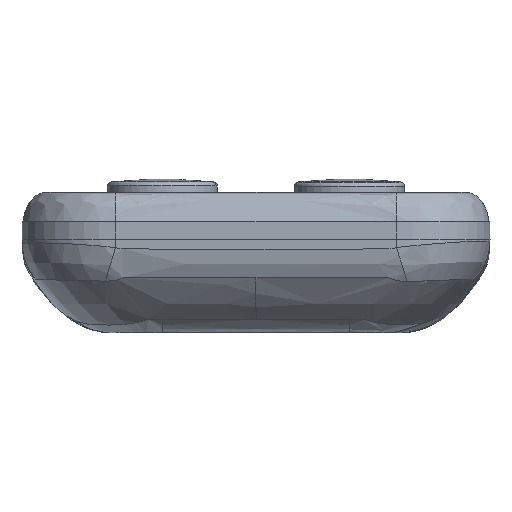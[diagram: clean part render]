
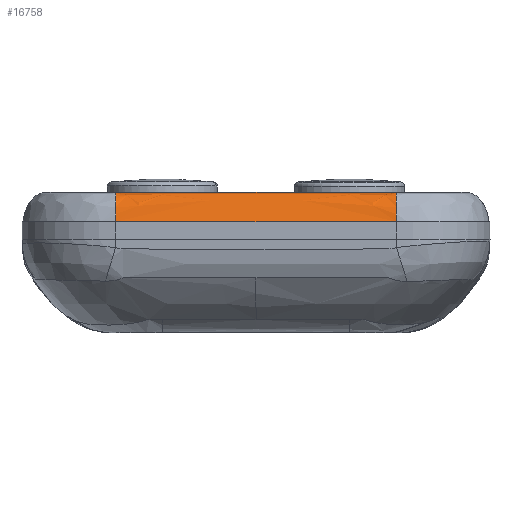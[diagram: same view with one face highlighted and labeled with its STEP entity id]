
A CAD part, front view. The second image highlights one B-rep face of the part: STEP entity #16758.
In plain terms, the highlighted free-form (B-spline) face has degree [2, 3] with [3, 4] control points.
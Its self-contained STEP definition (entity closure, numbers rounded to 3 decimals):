
#235 = CARTESIAN_POINT ( 'NONE',  ( 8., -57.964, 0. ) ) ;
#1622 = FACE_OUTER_BOUND ( 'NONE', #5903, .T. ) ;
#2096 = CARTESIAN_POINT ( 'NONE',  ( 12., -59.607, 0. ) ) ;
#2206 =( BOUNDED_CURVE ( )  B_SPLINE_CURVE ( 2, ( #3327, #15199, #18567 ),
 .UNSPECIFIED., .F., .T. ) 
 B_SPLINE_CURVE_WITH_KNOTS ( ( 3, 3 ),
 ( 0.1, 1. ),
 .UNSPECIFIED. ) 
 CURVE ( )  GEOMETRIC_REPRESENTATION_ITEM ( )  RATIONAL_B_SPLINE_CURVE ( ( 0.95, 0.747, 1. ) ) 
 REPRESENTATION_ITEM ( '' )  );
#2882 = VERTEX_POINT ( 'NONE', #11326 ) ;
#3327 = CARTESIAN_POINT ( 'NONE',  ( -12., -59.928, -2.5 ) ) ;
#3357 = CARTESIAN_POINT ( 'NONE',  ( 12., -57.964, 0. ) ) ;
#3851 = CARTESIAN_POINT ( 'NONE',  ( 0., -57.964, 0. ) ) ;
#3949 = CARTESIAN_POINT ( 'NONE',  ( 0., -59.928, -2.5 ) ) ;
#4574 = VERTEX_POINT ( 'NONE', #10160 ) ;
#4811 = CARTESIAN_POINT ( 'NONE',  ( -4., -57.964, 0. ) ) ;
#5621 = CARTESIAN_POINT ( 'NONE',  ( -4., -57.964, 0. ) ) ;
#5807 = DIRECTION ( 'NONE',  ( -1., 0., 0. ) ) ;
#5903 = EDGE_LOOP ( 'NONE', ( #14982, #14244, #21555, #17190, #19706 ) ) ;
#6553 = EDGE_CURVE ( 'NONE', #12418, #10322, #14085, .T. ) ;
#6673 = CARTESIAN_POINT ( 'NONE',  ( -12., -59.963, -2.93 ) ) ;
#7636 = EDGE_CURVE ( 'NONE', #10984, #2882, #8560, .T. ) ;
#8138 = CARTESIAN_POINT ( 'NONE',  ( 4., -59.86, 0. ) ) ;
#8560 =( BOUNDED_CURVE ( )  B_SPLINE_CURVE ( 2, ( #18871, #2096, #20569 ),
 .UNSPECIFIED., .F., .T. ) 
 B_SPLINE_CURVE_WITH_KNOTS ( ( 3, 3 ),
 ( 0.1, 1. ),
 .UNSPECIFIED. ) 
 CURVE ( )  GEOMETRIC_REPRESENTATION_ITEM ( )  RATIONAL_B_SPLINE_CURVE ( ( 0.95, 0.747, 1. ) ) 
 REPRESENTATION_ITEM ( '' )  );
#8677 = EDGE_CURVE ( 'NONE', #10984, #4574, #13547, .T. ) ;
#9848 = EDGE_CURVE ( 'NONE', #2882, #10322, #11639, .T. ) ;
#10160 = CARTESIAN_POINT ( 'NONE',  ( -12., -59.928, -2.5 ) ) ;
#10186 = CARTESIAN_POINT ( 'NONE',  ( 12., -59.928, -2.5 ) ) ;
#10322 = VERTEX_POINT ( 'NONE', #13851 ) ;
#10327 = CARTESIAN_POINT ( 'NONE',  ( -8., -57.964, 0. ) ) ;
#10366 = CARTESIAN_POINT ( 'NONE',  ( 0., -57.964, 0. ) ) ;
#10984 = VERTEX_POINT ( 'NONE', #10186 ) ;
#11326 = CARTESIAN_POINT ( 'NONE',  ( 12., -57.964, 0. ) ) ;
#11639 = B_SPLINE_CURVE_WITH_KNOTS ( 'NONE', 3,
 ( #20466, #235, #20397, #10366 ),
 .UNSPECIFIED., .F., .F.,
 ( 4, 4 ),
 ( 0., 1. ),
 .UNSPECIFIED. ) ;
#11722 = CARTESIAN_POINT ( 'NONE',  ( 4., -59.963, -2.93 ) ) ;
#12418 = VERTEX_POINT ( 'NONE', #17002 ) ;
#13480 =( BOUNDED_SURFACE ( )  B_SPLINE_SURFACE ( 2, 3, ( 
 ( #18152, #4811, #14871, #3357 ),
 ( #16558, #21589, #8138, #14939 ),
 ( #6673, #15090, #11722, #19922 ) ),
 .UNSPECIFIED., .F., .F., .T. ) 
 B_SPLINE_SURFACE_WITH_KNOTS ( ( 3, 3 ),
 ( 4, 4 ),
 ( 0., 1. ),
 ( -0.012, 0.012 ),
 .UNSPECIFIED. ) 
 GEOMETRIC_REPRESENTATION_ITEM ( )  RATIONAL_B_SPLINE_SURFACE ( (
 ( 1., 1., 1., 1.),
 ( 0.719, 0.719, 0.719, 0.719),
 ( 1., 1., 1., 1.) ) ) 
 REPRESENTATION_ITEM ( '' )  SURFACE ( )  );
#13547 = LINE ( 'NONE', #3949, #16433 ) ;
#13851 = CARTESIAN_POINT ( 'NONE',  ( 0., -57.964, 0. ) ) ;
#14085 = B_SPLINE_CURVE_WITH_KNOTS ( 'NONE', 3,
 ( #18587, #10327, #5621, #3851 ),
 .UNSPECIFIED., .F., .F.,
 ( 4, 4 ),
 ( 0., 0.5 ),
 .UNSPECIFIED. ) ;
#14244 = ORIENTED_EDGE ( 'NONE', *, *, #7636, .T. ) ;
#14871 = CARTESIAN_POINT ( 'NONE',  ( 4., -57.964, 0. ) ) ;
#14939 = CARTESIAN_POINT ( 'NONE',  ( 12., -59.86, 0. ) ) ;
#14982 = ORIENTED_EDGE ( 'NONE', *, *, #8677, .F. ) ;
#15090 = CARTESIAN_POINT ( 'NONE',  ( -4., -59.963, -2.93 ) ) ;
#15199 = CARTESIAN_POINT ( 'NONE',  ( -12., -59.607, 0. ) ) ;
#16433 = VECTOR ( 'NONE', #5807, 1000. ) ;
#16558 = CARTESIAN_POINT ( 'NONE',  ( -12., -59.86, 0. ) ) ;
#16758 = ADVANCED_FACE ( 'NONE', ( #1622 ), #13480, .T. ) ;
#17002 = CARTESIAN_POINT ( 'NONE',  ( -12., -57.964, 0. ) ) ;
#17190 = ORIENTED_EDGE ( 'NONE', *, *, #6553, .F. ) ;
#17540 = EDGE_CURVE ( 'NONE', #4574, #12418, #2206, .T. ) ;
#18152 = CARTESIAN_POINT ( 'NONE',  ( -12., -57.964, 0. ) ) ;
#18567 = CARTESIAN_POINT ( 'NONE',  ( -12., -57.964, 0. ) ) ;
#18587 = CARTESIAN_POINT ( 'NONE',  ( -12., -57.964, 0. ) ) ;
#18871 = CARTESIAN_POINT ( 'NONE',  ( 12., -59.928, -2.5 ) ) ;
#19706 = ORIENTED_EDGE ( 'NONE', *, *, #17540, .F. ) ;
#19922 = CARTESIAN_POINT ( 'NONE',  ( 12., -59.963, -2.93 ) ) ;
#20397 = CARTESIAN_POINT ( 'NONE',  ( 4., -57.964, 0. ) ) ;
#20466 = CARTESIAN_POINT ( 'NONE',  ( 12., -57.964, 0. ) ) ;
#20569 = CARTESIAN_POINT ( 'NONE',  ( 12., -57.964, 0. ) ) ;
#21555 = ORIENTED_EDGE ( 'NONE', *, *, #9848, .T. ) ;
#21589 = CARTESIAN_POINT ( 'NONE',  ( -4., -59.86, 0. ) ) ;
